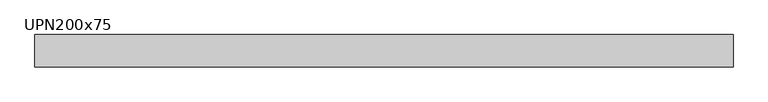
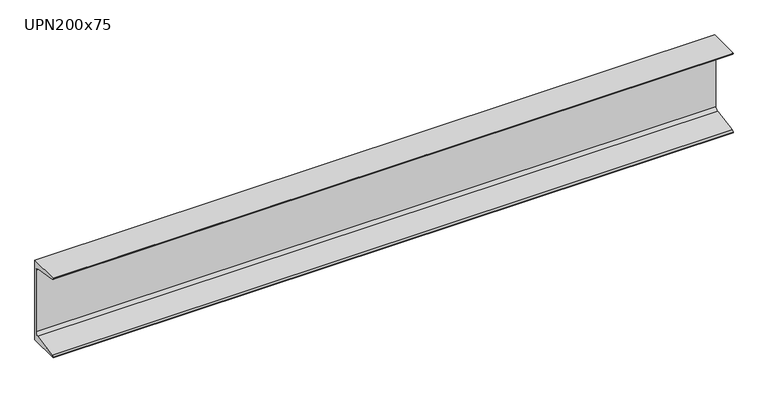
"""IFC4 building model written with IfcOpenShell, lengths in millimetres: beam geometry, M_MC Shapes : UPN200x75."""

from ifc_helpers import new_model, si_unit, point, frame, frame_2d, origin, place, context, project, spatial, polyline, circle_curve, trimmed, segment, composite_curve, outline, extrude, source, transform, mapped, element, save


def upn200x75_fda01a95(model_context):
    return source(origin(), model_context, "Body", "SweptSolid", [
        extrude(outline(composite_curve([segment(polyline([(10.9, 100.0), (10.9, -100.0), (-64.1, -100.0), (-64.1, -99.0253247)]), True, "CONTINUOUS"), segment(trimmed(circle_curve(frame_2d((-60.15, -99.0253247)), 3.95), [point((-64.1, -99.0253247))], [point((-60.7993773, -95.1290689))], False, "CARTESIAN"), True, "CONTINUOUS"), segment(polyline([(-60.7993773, -95.1290689), (-0.2512455, -85.0376935)]), True, "CONTINUOUS"), segment(trimmed(circle_curve(frame_2d((-1.55, -77.2451819)), 7.9), [point((-0.2512455, -85.0376935))], [point((6.35, -77.2451819))], True, "CARTESIAN"), True, "CONTINUOUS"), segment(polyline([(6.35, -77.2451819), (6.35, 77.2451819)]), True, "CONTINUOUS"), segment(trimmed(circle_curve(frame_2d((-1.55, 77.2451819)), 7.9), [point((6.35, 77.2451819))], [point((-0.2512455, 85.0376935))], True, "CARTESIAN"), True, "CONTINUOUS"), segment(polyline([(-0.2512455, 85.0376935), (-60.7993773, 95.1290689)]), True, "CONTINUOUS"), segment(trimmed(circle_curve(frame_2d((-60.15, 99.0253247)), 3.95), [point((-60.7993773, 95.1290689))], [point((-64.1, 99.0253247))], False, "CARTESIAN"), True, "CONTINUOUS"), segment(polyline([(-64.1, 99.0253247), (-64.1, 100.0), (10.9, 100.0)]), True, "CONTINUOUS")], self_intersect=False)), frame((-917.25, 0.0, 0.0), z_axis=(1.0, 0.0, 0.0), x_axis=(0.0, 1.0, 0.0)), (0.0, 0.0, 1.0), 1614.2),
    ])


if __name__ == "__main__":
    model = new_model("IFC4")
    model_context = context("Model", 3, world=origin())
    ifc_project = project(units=[si_unit("LENGTHUNIT", "METRE", prefix="MILLI")], contexts=[model_context])
    site = spatial("IfcSite", under=ifc_project)
    building = spatial("IfcBuilding", under=site)
    placement = place(None, origin())
    upn200x75_shape = upn200x75_fda01a95(model_context)
    element("IfcBeam", 1, ObjectType="M_MC Shapes : UPN200x75", at=placement, inside=building, context=model_context, shape_type="MappedRepresentation", body=[
        mapped(upn200x75_shape, transform((0.0, 0.0, 0.0), x_axis=(1.0, 0.0, 0.0), y_axis=(0.0, 1.0, 0.0), z_axis=(0.0, 0.0, 1.0))),
    ])
    save(model, "model.ifc")
